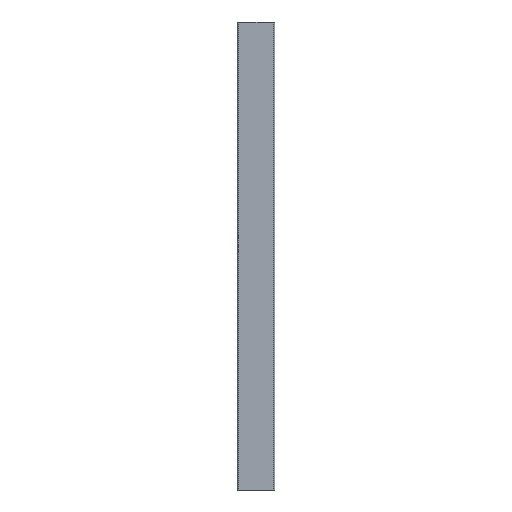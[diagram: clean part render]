
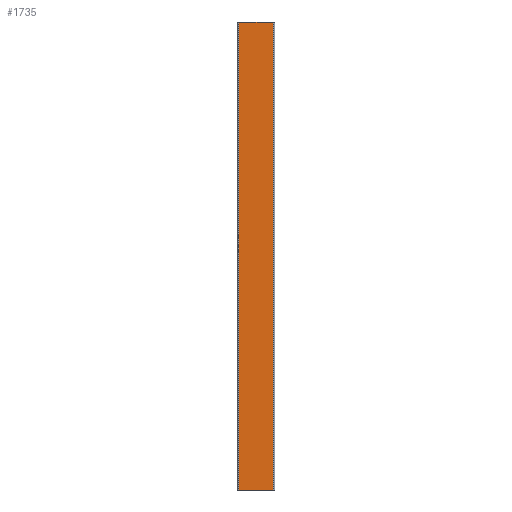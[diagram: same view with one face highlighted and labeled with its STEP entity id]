
A CAD part, front view. The second image highlights one B-rep face of the part: STEP entity #1735.
In plain terms, the highlighted planar face has unit normal (0, -1, 0).
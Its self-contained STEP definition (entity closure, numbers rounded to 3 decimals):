
#293 = ORIENTED_EDGE ( 'NONE', *, *, #969, .F. ) ;
#471 = DIRECTION ( 'NONE',  ( 0., 0., 1. ) ) ;
#689 = DIRECTION ( 'NONE',  ( 0., 0., -1. ) ) ;
#846 = EDGE_CURVE ( 'NONE', #2089, #5723, #2072, .T. ) ;
#860 = VERTEX_POINT ( 'NONE', #2826 ) ;
#969 = EDGE_CURVE ( 'NONE', #4852, #5723, #5822, .T. ) ;
#975 = DIRECTION ( 'NONE',  ( 0., 1., 0. ) ) ;
#1052 = AXIS2_PLACEMENT_3D ( 'NONE', #1447, #975, #471 ) ;
#1063 = CARTESIAN_POINT ( 'NONE',  ( 176.159, -41.336, 1000. ) ) ;
#1418 = EDGE_CURVE ( 'NONE', #860, #4852, #2586, .T. ) ;
#1447 = CARTESIAN_POINT ( 'NONE',  ( 102.159, -41.336, 1000. ) ) ;
#1735 = ADVANCED_FACE ( 'NONE', ( #5832 ), #5992, .F. ) ;
#1865 = ORIENTED_EDGE ( 'NONE', *, *, #846, .T. ) ;
#1874 = CARTESIAN_POINT ( 'NONE',  ( 102.159, -41.336, 1000. ) ) ;
#1925 = ORIENTED_EDGE ( 'NONE', *, *, #4563, .T. ) ;
#2072 = LINE ( 'NONE', #3542, #2222 ) ;
#2089 = VERTEX_POINT ( 'NONE', #4121 ) ;
#2092 = CARTESIAN_POINT ( 'NONE',  ( 176.159, -41.336, 1000. ) ) ;
#2222 = VECTOR ( 'NONE', #4727, 1000. ) ;
#2382 = CARTESIAN_POINT ( 'NONE',  ( 176.159, -41.336, 0. ) ) ;
#2493 = LINE ( 'NONE', #4032, #4345 ) ;
#2586 = LINE ( 'NONE', #1874, #3944 ) ;
#2826 = CARTESIAN_POINT ( 'NONE',  ( 102.159, -41.336, 1000. ) ) ;
#3542 = CARTESIAN_POINT ( 'NONE',  ( 102.159, -41.336, 0. ) ) ;
#3944 = VECTOR ( 'NONE', #5690, 1000. ) ;
#3990 = DIRECTION ( 'NONE',  ( 0., 0., -1. ) ) ;
#4032 = CARTESIAN_POINT ( 'NONE',  ( 102.159, -41.336, 1000. ) ) ;
#4121 = CARTESIAN_POINT ( 'NONE',  ( 102.159, -41.336, 0. ) ) ;
#4345 = VECTOR ( 'NONE', #3990, 1000. ) ;
#4563 = EDGE_CURVE ( 'NONE', #860, #2089, #2493, .T. ) ;
#4727 = DIRECTION ( 'NONE',  ( 1., 0., 0. ) ) ;
#4852 = VERTEX_POINT ( 'NONE', #1063 ) ;
#5372 = VECTOR ( 'NONE', #689, 1000. ) ;
#5579 = ORIENTED_EDGE ( 'NONE', *, *, #1418, .F. ) ;
#5690 = DIRECTION ( 'NONE',  ( 1., 0., 0. ) ) ;
#5723 = VERTEX_POINT ( 'NONE', #2382 ) ;
#5805 = EDGE_LOOP ( 'NONE', ( #1865, #293, #5579, #1925 ) ) ;
#5822 = LINE ( 'NONE', #2092, #5372 ) ;
#5832 = FACE_OUTER_BOUND ( 'NONE', #5805, .T. ) ;
#5992 = PLANE ( 'NONE',  #1052 ) ;
